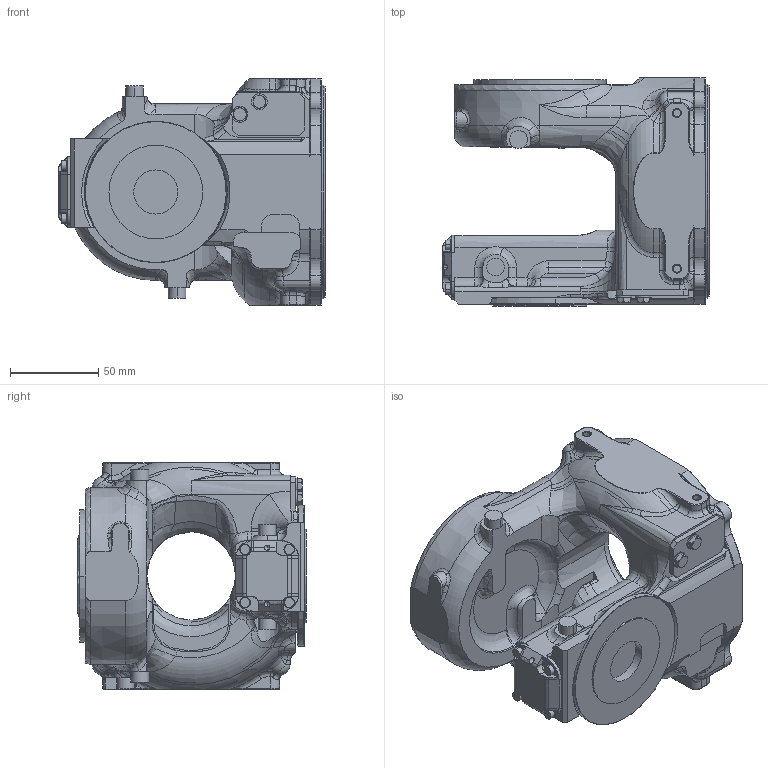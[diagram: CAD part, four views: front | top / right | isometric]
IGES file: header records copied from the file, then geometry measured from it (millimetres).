
Start section:  PTC IGES file: gp25-c00_b-axis.igs
Global section: file name: gp25-c00_b-axis.igs; native system: Creo Parametric by Parametric Technology Corporation; preprocessor: 2015030; author: ip-naka; organization: Unknown; date: 20180604.190559; units: millimetre
Bounding box: 150.5 x 129 x 128.48 mm (x, y, z)
Volume: 974017.9 mm3; surface area: 117752.1 mm2
Topology: 1 solids, 21 shells, 866 faces, 2237 edges, 1515 vertices
Faces by surface type: revolution 492, bspline 374
